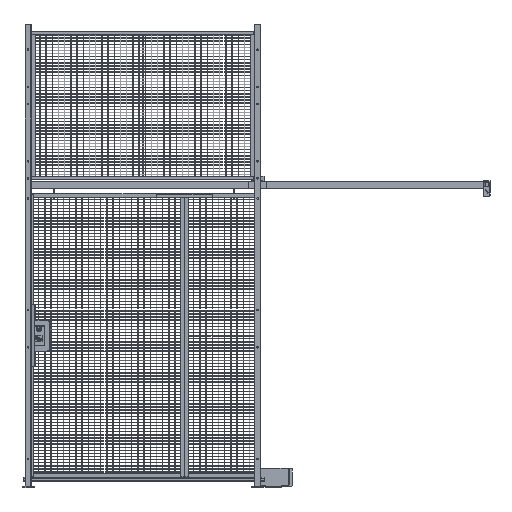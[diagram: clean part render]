
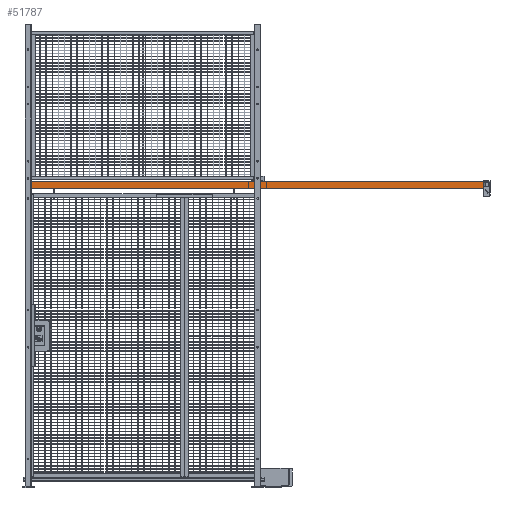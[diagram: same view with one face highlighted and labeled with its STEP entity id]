
A CAD part, top view. The second image highlights one B-rep face of the part: STEP entity #51787.
In plain terms, the highlighted planar face has unit normal (0, 0, 1).
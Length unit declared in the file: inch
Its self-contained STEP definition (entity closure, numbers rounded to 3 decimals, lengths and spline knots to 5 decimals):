
#3402 = CARTESIAN_POINT ( 'NONE',  ( 75., 0., 0.9375 ) ) ;
#4445 = FACE_OUTER_BOUND ( 'NONE', #58330, .T. ) ;
#5047 = VERTEX_POINT ( 'NONE', #12150 ) ;
#9586 = CIRCLE ( 'NONE', #40309, 0.25 ) ;
#9983 = ORIENTED_EDGE ( 'NONE', *, *, #26361, .F. ) ;
#10577 = VECTOR ( 'NONE', #47350, 39.37008 ) ;
#12150 = CARTESIAN_POINT ( 'NONE',  ( 73.75, 1.1875, 0.9375 ) ) ;
#13113 = LINE ( 'NONE', #56618, #73496 ) ;
#15222 = EDGE_LOOP ( 'NONE', ( #80908 ) ) ;
#15727 = EDGE_CURVE ( 'NONE', #5047, #5047, #9586, .T. ) ;
#17227 = CARTESIAN_POINT ( 'NONE',  ( 75., 0.1225, 0.9375 ) ) ;
#18058 = ORIENTED_EDGE ( 'NONE', *, *, #21942, .F. ) ;
#19957 = CARTESIAN_POINT ( 'NONE',  ( 74., 1.1875, 0.9375 ) ) ;
#21942 = EDGE_CURVE ( 'NONE', #32663, #32663, #31500, .T. ) ;
#22159 = DIRECTION ( 'NONE',  ( 0., 0., 1. ) ) ;
#23273 = VECTOR ( 'NONE', #59002, 39.37008 ) ;
#23782 = ORIENTED_EDGE ( 'NONE', *, *, #74481, .F. ) ;
#23888 = AXIS2_PLACEMENT_3D ( 'NONE', #55468, #47961, #29152 ) ;
#26361 = EDGE_CURVE ( 'NONE', #41601, #30273, #74524, .T. ) ;
#28019 = ORIENTED_EDGE ( 'NONE', *, *, #42071, .T. ) ;
#28435 = DIRECTION ( 'NONE',  ( 1., 0., 0. ) ) ;
#29152 = DIRECTION ( 'NONE',  ( -1., 0., 0. ) ) ;
#30273 = VERTEX_POINT ( 'NONE', #69214 ) ;
#31500 = CIRCLE ( 'NONE', #78267, 0.25 ) ;
#32390 = DIRECTION ( 'NONE',  ( -1., 0., 0. ) ) ;
#32663 = VERTEX_POINT ( 'NONE', #77851 ) ;
#33532 = CARTESIAN_POINT ( 'NONE',  ( -75., 0., 0.9375 ) ) ;
#36277 = FACE_BOUND ( 'NONE', #15222, .T. ) ;
#36554 = ORIENTED_EDGE ( 'NONE', *, *, #62266, .T. ) ;
#40309 = AXIS2_PLACEMENT_3D ( 'NONE', #19957, #42680, #45447 ) ;
#40683 = LINE ( 'NONE', #3402, #10577 ) ;
#41291 = PLANE ( 'NONE',  #23888 ) ;
#41601 = VERTEX_POINT ( 'NONE', #65684 ) ;
#42071 = EDGE_CURVE ( 'NONE', #73733, #67480, #13113, .T. ) ;
#42527 = FACE_BOUND ( 'NONE', #67015, .T. ) ;
#42680 = DIRECTION ( 'NONE',  ( 0., 0., 1. ) ) ;
#45447 = DIRECTION ( 'NONE',  ( -1., 0., 0. ) ) ;
#47350 = DIRECTION ( 'NONE',  ( 0., -1., 0. ) ) ;
#47961 = DIRECTION ( 'NONE',  ( 0., 0., -1. ) ) ;
#49281 = VECTOR ( 'NONE', #81668, 39.37008 ) ;
#51787 = ADVANCED_FACE ( 'NONE', ( #42527, #36277, #4445 ), #41291, .F. ) ;
#54379 = LINE ( 'NONE', #33532, #23273 ) ;
#55233 = CARTESIAN_POINT ( 'NONE',  ( -75., 2.2525, 0.9375 ) ) ;
#55468 = CARTESIAN_POINT ( 'NONE',  ( 75., 0., 0.9375 ) ) ;
#56618 = CARTESIAN_POINT ( 'NONE',  ( 75., 2.2525, 0.9375 ) ) ;
#58330 = EDGE_LOOP ( 'NONE', ( #36554, #9983, #23782, #28019 ) ) ;
#58946 = CARTESIAN_POINT ( 'NONE',  ( -74., 1.1875, 0.9375 ) ) ;
#59002 = DIRECTION ( 'NONE',  ( 0., -1., 0. ) ) ;
#62266 = EDGE_CURVE ( 'NONE', #67480, #30273, #54379, .T. ) ;
#65684 = CARTESIAN_POINT ( 'NONE',  ( 75., 0.1225, 0.9375 ) ) ;
#67015 = EDGE_LOOP ( 'NONE', ( #18058 ) ) ;
#67480 = VERTEX_POINT ( 'NONE', #55233 ) ;
#69214 = CARTESIAN_POINT ( 'NONE',  ( -75., 0.1225, 0.9375 ) ) ;
#73496 = VECTOR ( 'NONE', #32390, 39.37008 ) ;
#73733 = VERTEX_POINT ( 'NONE', #76926 ) ;
#74481 = EDGE_CURVE ( 'NONE', #73733, #41601, #40683, .T. ) ;
#74524 = LINE ( 'NONE', #17227, #49281 ) ;
#76926 = CARTESIAN_POINT ( 'NONE',  ( 75., 2.2525, 0.9375 ) ) ;
#77851 = CARTESIAN_POINT ( 'NONE',  ( -73.75, 1.1875, 0.9375 ) ) ;
#78267 = AXIS2_PLACEMENT_3D ( 'NONE', #58946, #22159, #28435 ) ;
#80908 = ORIENTED_EDGE ( 'NONE', *, *, #15727, .F. ) ;
#81668 = DIRECTION ( 'NONE',  ( -1., 0., 0. ) ) ;
